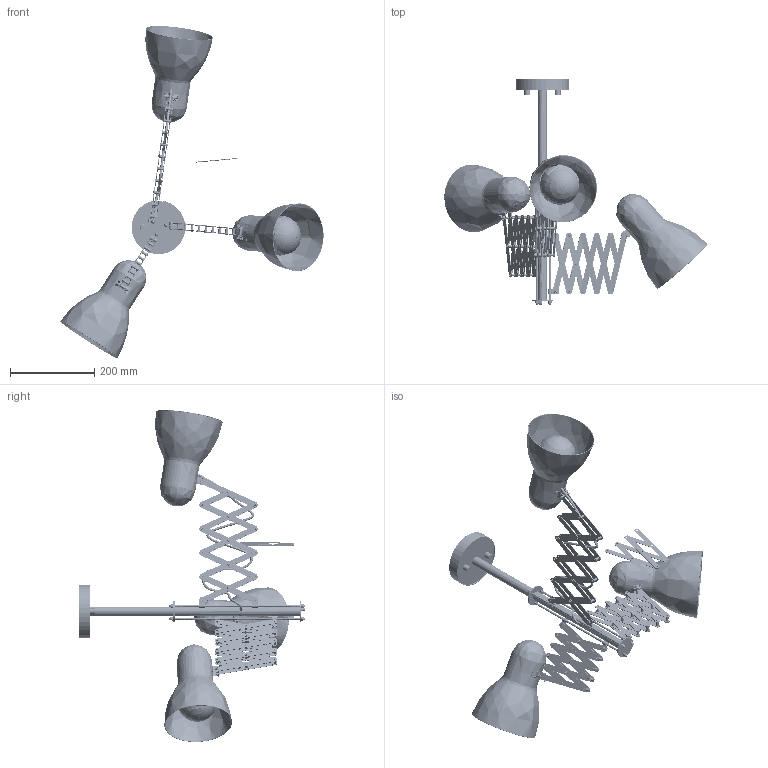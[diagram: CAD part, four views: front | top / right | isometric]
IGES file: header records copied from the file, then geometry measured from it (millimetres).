
Start section: SolidWorks IGES file using analytic representation for surfaces
Global section: file name: E:\_DESIGN\Harmony\3\Harmony 3_6870.IGS; native system: SolidWorks 2016; preprocessor: SolidWorks 2016; author: Asia; date: 160707.130741; units: millimetre
Bounding box: 623.08 x 536.85 x 785.93 mm (x, y, z)
Surface area: 1153519.6 mm2 (no closed solid volume)
Topology: 0 solids, 0 shells, 5045 faces, 82868 edges, 82672 vertices
Faces by surface type: revolution 2644, bspline 2401
